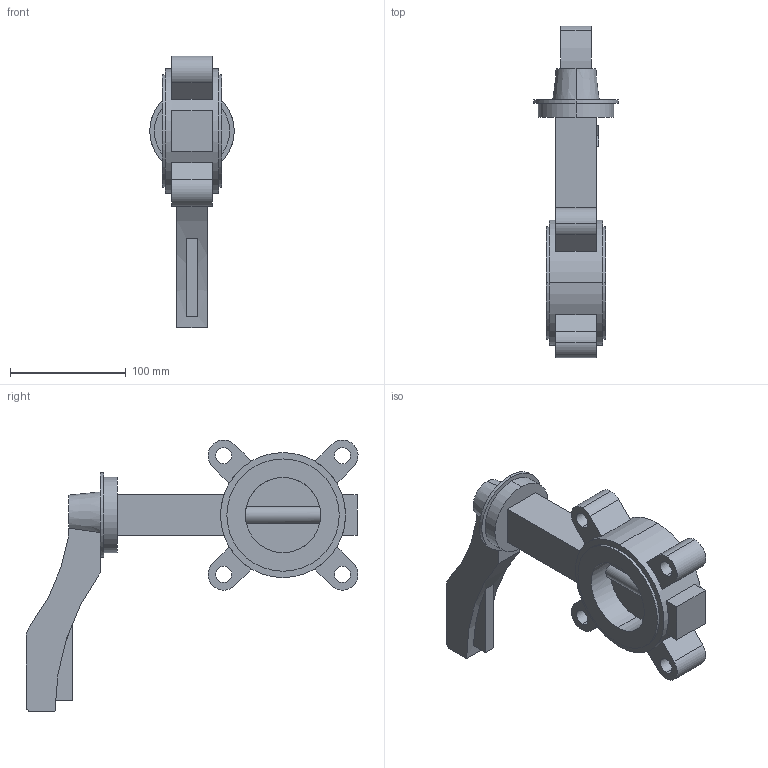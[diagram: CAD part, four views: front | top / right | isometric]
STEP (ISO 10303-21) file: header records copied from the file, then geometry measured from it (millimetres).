
FILE_DESCRIPTION (( 'STEP AP214' ), '1' );
FILE_NAME ('E124_065.STEP', '2021-05-28T12:54:09', ( '' ), ( '' ), 'SwSTEP 2.0', 'SolidWorks 2020', '' );
FILE_SCHEMA (( 'AUTOMOTIVE_DESIGN' ));
Length unit declared in the file: millimetre
Products named in the file (1): E124_065
Bounding box: 73 x 286.74 x 234.77 mm (x, y, z)
Volume: 736884.8 mm3; surface area: 109074.5 mm2
Topology: 1 solids, 1 shells, 97 faces, 241 edges, 160 vertices
Faces by surface type: plane 61, cylinder 34, cone 2
Entity records: 4076 total; most frequent: CARTESIAN_POINT 629, DIRECTION 519, ORIENTED_EDGE 482, EDGE_CURVE 241, AXIS2_PLACEMENT_3D 186, VERTEX_POINT 160, LINE 147, VECTOR 147
